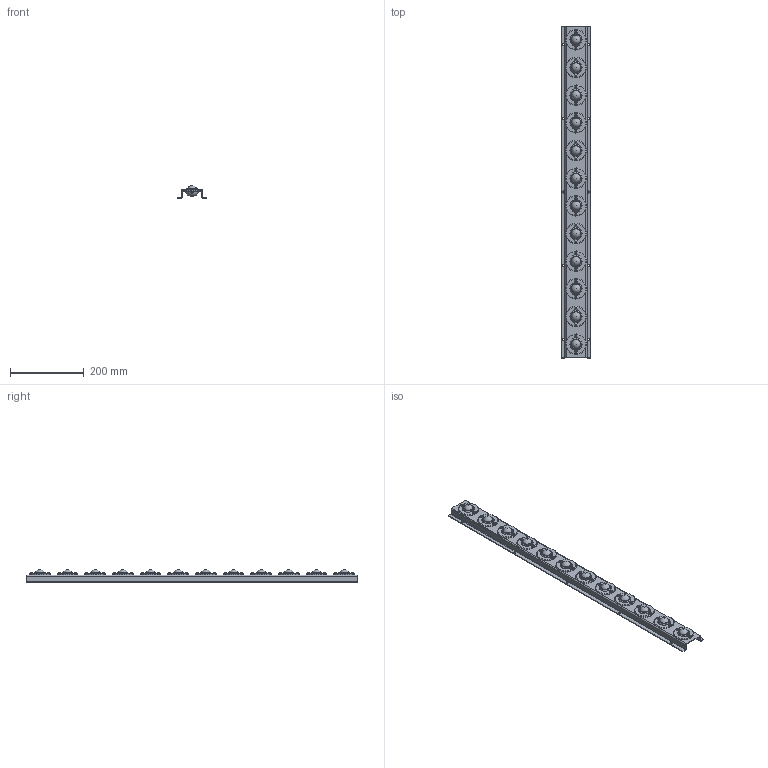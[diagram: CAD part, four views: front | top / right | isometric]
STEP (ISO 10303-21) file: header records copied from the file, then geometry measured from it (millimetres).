
FILE_DESCRIPTION(/* description */ (''),/* implementation_level */ '2;1');
FILE_NAME(/* name */ 'Z:\80-CAD共有ファイル\製品3D\X2\30C730FC30BF\X0\\B1-IBU\IBU-900-75.stp',/* time_stamp */ '2015-01-07T10:01:51+09:00',/* author */ ('yamaki'),/* organization */ (''),/* preprocessor_version */ 'ST-DEVELOPER v15.6',/* originating_system */ 'Autodesk Inventor 2015',/* authorisation */ '');
FILE_SCHEMA (('AUTOMOTIVE_DESIGN { 1 0 10303 214 3 1 1 }'));
Length unit declared in the file: millimetre
Products named in the file (5): B175AT-01; 3325AA; CTS40410; H0N10410; B175AA
Bounding box: 80 x 900 x 34.6 mm (x, y, z)
Volume: 446761.2 mm3; surface area: 272567.6 mm2
Topology: 61 solids, 61 shells, 1380 faces, 3116 edges, 1942 vertices
Faces by surface type: plane 642, cone 396, cylinder 222, sphere 60, torus 60
Full cylindrical faces by diameter (mm): 1.5 x12, 3.242 x24, 3.6 x24, 4 x24, 4.5 x48, 5.5 x10, 9.4 x24, 23.988 x12, 24.816 x12, 38 x12, 55.827 x12
Entity records: 4650 total; most frequent: DIRECTION 846, CARTESIAN_POINT 752, ORIENTED_EDGE 556, AXIS2_PLACEMENT_3D 378, EDGE_LOOP 320, EDGE_CURVE 278, VERTEX_POINT 212, FACE_BOUND 172
